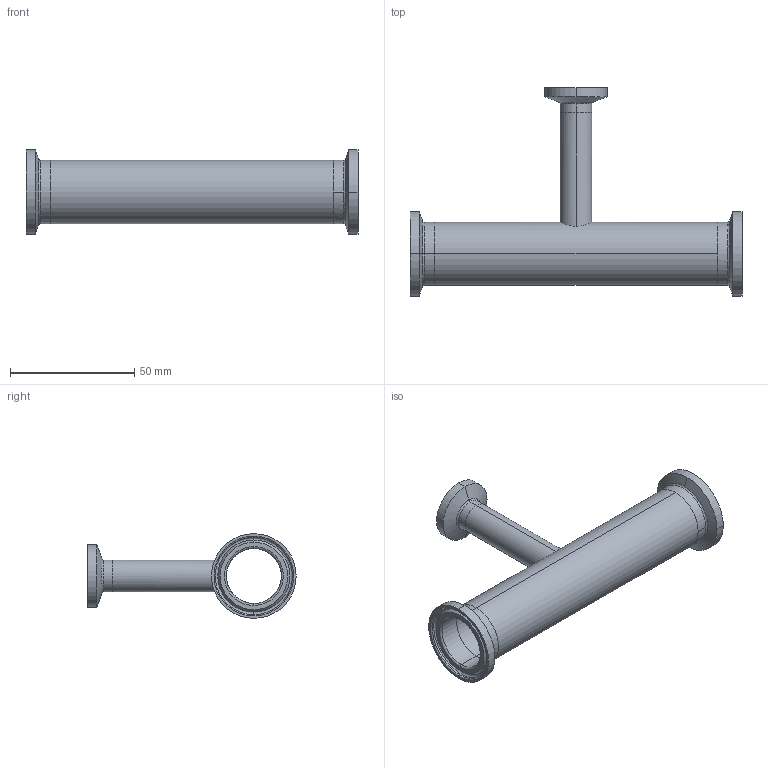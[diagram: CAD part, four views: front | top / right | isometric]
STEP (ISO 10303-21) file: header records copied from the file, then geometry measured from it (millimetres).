
FILE_DESCRIPTION (( 'STEP AP214' ), '1' );
FILE_NAME ('TEG7R6L1.0x.5-..Type A.STEP', '2016-05-24T05:26:31', ( 'eran' ), ( '' ), 'SwSTEP 2.0', 'SolidWorks 2016', '' );
FILE_SCHEMA (( 'AUTOMOTIVE_DESIGN' ));
Length unit declared in the file: millimetre
Products named in the file (1): TEG7R6L1.0x.5-..Type A
Bounding box: 133.4 x 83.71 x 34.01 mm (x, y, z)
Volume: 23313 mm3; surface area: 27239.7 mm2
Topology: 4 solids, 4 shells, 80 faces, 176 edges, 108 vertices
Faces by surface type: cylinder 32, bspline 24, plane 12, cone 12
Entity records: 2725 total; most frequent: CARTESIAN_POINT 917, DIRECTION 390, ORIENTED_EDGE 352, EDGE_CURVE 176, AXIS2_PLACEMENT_3D 173, CIRCLE 116, VERTEX_POINT 108, EDGE_LOOP 94
